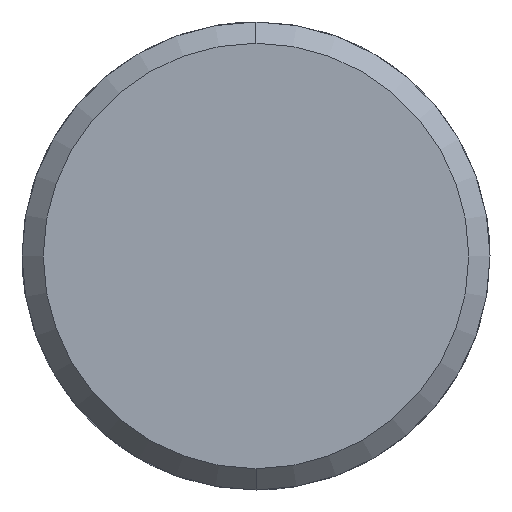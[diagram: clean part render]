
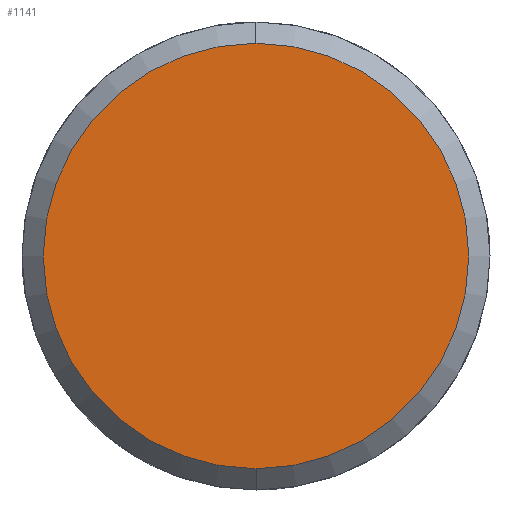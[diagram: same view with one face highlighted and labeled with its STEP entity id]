
A CAD part, left-side view. The second image highlights one B-rep face of the part: STEP entity #1141.
In plain terms, the highlighted planar face has unit normal (-1, 0, 0).
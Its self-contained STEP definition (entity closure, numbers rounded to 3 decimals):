
#1073=CARTESIAN_POINT('Vertex',(-5.,0.,-10.)) ;
#1076=CARTESIAN_POINT('Axis2P3D Location',(-5.,0.,0.)) ;
#1080=CARTESIAN_POINT('Vertex',(-5.,10.,0.)) ;
#1083=CARTESIAN_POINT('Axis2P3D Location',(-5.,0.,0.)) ;
#1087=CARTESIAN_POINT('Vertex',(-5.,0.,10.)) ;
#1109=CARTESIAN_POINT('Axis2P3D Location',(-5.,0.,0.)) ;
#1113=CARTESIAN_POINT('Vertex',(-5.,-10.,0.)) ;
#1116=CARTESIAN_POINT('Axis2P3D Location',(-5.,0.,0.)) ;
#1130=CARTESIAN_POINT('Axis2P3D Location',(-5.,0.,0.)) ;
#1077=DIRECTION('Axis2P3D Direction',(1.,0.,-0.)) ;
#1084=DIRECTION('Axis2P3D Direction',(1.,0.,-0.)) ;
#1110=DIRECTION('Axis2P3D Direction',(1.,0.,-0.)) ;
#1117=DIRECTION('Axis2P3D Direction',(1.,0.,-0.)) ;
#1131=DIRECTION('Axis2P3D Direction',(1.,0.,-0.)) ;
#1132=DIRECTION('Axis2P3D XDirection',(-0.,0.,-1.)) ;
#1078=AXIS2_PLACEMENT_3D('Circle Axis2P3D',#1076,#1077,$) ;
#1085=AXIS2_PLACEMENT_3D('Circle Axis2P3D',#1083,#1084,$) ;
#1111=AXIS2_PLACEMENT_3D('Circle Axis2P3D',#1109,#1110,$) ;
#1118=AXIS2_PLACEMENT_3D('Circle Axis2P3D',#1116,#1117,$) ;
#1133=AXIS2_PLACEMENT_3D('Plane Axis2P3D',#1130,#1131,#1132) ;
#1136=ORIENTED_EDGE('',*,*,#1082,.F.) ;
#1137=ORIENTED_EDGE('',*,*,#1120,.F.) ;
#1138=ORIENTED_EDGE('',*,*,#1115,.F.) ;
#1139=ORIENTED_EDGE('',*,*,#1089,.F.) ;
#1141=ADVANCED_FACE('351-12X26X60',(#1140),#1134,.F.) ;
#1079=CIRCLE('generated circle',#1078,10.) ;
#1086=CIRCLE('generated circle',#1085,10.) ;
#1112=CIRCLE('generated circle',#1111,10.) ;
#1119=CIRCLE('generated circle',#1118,10.) ;
#1082=EDGE_CURVE('',#1074,#1081,#1079,.T.) ;
#1089=EDGE_CURVE('',#1081,#1088,#1086,.T.) ;
#1115=EDGE_CURVE('',#1088,#1114,#1112,.T.) ;
#1120=EDGE_CURVE('',#1114,#1074,#1119,.T.) ;
#1135=EDGE_LOOP('',(#1136,#1137,#1138,#1139)) ;
#1140=FACE_OUTER_BOUND('',#1135,.T.) ;
#1134=PLANE('Plane',#1133) ;
#1074=VERTEX_POINT('',#1073) ;
#1081=VERTEX_POINT('',#1080) ;
#1088=VERTEX_POINT('',#1087) ;
#1114=VERTEX_POINT('',#1113) ;
